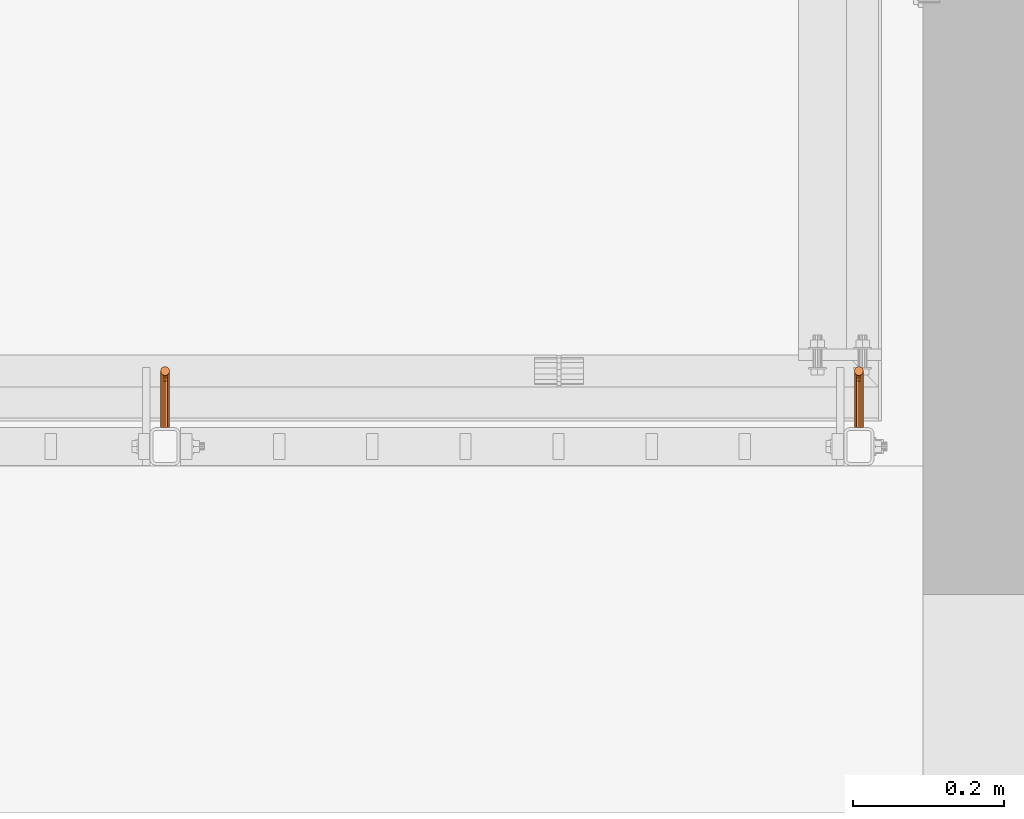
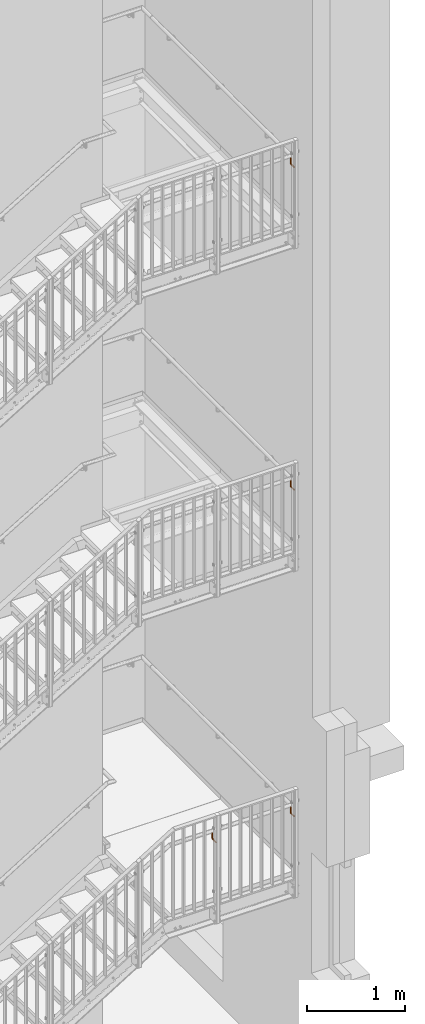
# One storey, part 386 of 410: 4 proxies.
"""IFC2X3 building model written with IfcOpenShell, lengths in millimetres."""

from ifc_helpers import new_model, entity, si_unit, converted_unit, origin_with_axes, place, context, project, spatial, faceted_brep, element, save


model = new_model("IFC2X3")

# Units and contexts
model_context = context("Model", 3, precision=1e-09, world=origin_with_axes())
ifc_project = project(units=[si_unit("LENGTHUNIT", "METRE", prefix="MILLI"), si_unit("AREAUNIT", "SQUARE_METRE"), si_unit("VOLUMEUNIT", "CUBIC_METRE"), converted_unit("PLANEANGLEUNIT", "DEGREE", entity("IfcPlaneAngleMeasure", 0.01745329), si_unit("PLANEANGLEUNIT", "RADIAN"), dimensions=[0, 0, 0, 0, 0, 0, 0])], contexts=[model_context])

# Site, building, storey
site_placement = place(None, origin_with_axes())
site = spatial("IfcSite", under=ifc_project, at=site_placement, Name="mKR Teilneubau & Sanierung BA1 - Ostfildern", CompositionType="ELEMENT")
building_placement = place(site_placement, origin_with_axes())
building = spatial("IfcBuilding", under=site, at=building_placement, Name="Struktur 1", CompositionType="ELEMENT")
storey_placement = place(building_placement, origin_with_axes())
storey = spatial("IfcBuildingStorey", under=building, at=storey_placement, Name="Default Storey", CompositionType="ELEMENT", Elevation=0.0)

# Proxies
proxy_1_placement = place(None, origin_with_axes())
element("IfcBuildingElementProxy", 1, at=proxy_1_placement, inside=storey, ObjectType="-", context=model_context, shape_type="Brep", body=[
    faceted_brep([(3205.001468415, 15487.999999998, 6663.6), (3205.001468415, 15430.999999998, 6663.6), (3208.001468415, 15430.999999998, 6662.796152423), (3208.001468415, 15487.999999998, 6662.796152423), (3199.805315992, 15430.999999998, 6654.6), (3202.001468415, 15430.999999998, 6652.403847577), (3205.001468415, 15430.999999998, 6651.6), (3208.001468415, 15430.999999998, 6652.403847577), (3210.197620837, 15430.999999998, 6654.6), (3211.001468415, 15430.999999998, 6657.6), (3210.197620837, 15430.999999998, 6660.6), (3202.001468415, 15430.999999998, 6662.796152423), (3199.805315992, 15430.999999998, 6660.6), (3199.001468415, 15430.999999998, 6657.6), (3202.001468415, 15487.999999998, 6662.796152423), (3208.001468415, 15492.899820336, 6663.770787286), (3205.001468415, 15492.592201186, 6664.51344561), (3210.197620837, 15487.999999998, 6660.6), (3202.001468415, 15492.899820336, 6663.770787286), (3205.001468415, 15496.485281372, 6667.114718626), (3202.001468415, 15497.053687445, 6666.546312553), (3208.001468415, 15497.053687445, 6666.546312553), (3210.197620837, 15493.740251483, 6661.741807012), (3199.805315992, 15487.999999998, 6660.6), (3205.001468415, 15499.086554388, 6671.007798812), (3202.001468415, 15499.829212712, 6670.700179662), (3202.001468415, 15500.803847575, 6675.6), (3202.001468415, 15500.803847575, 6732.6), (3199.805315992, 15502.999999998, 6732.6), (3199.805315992, 15502.999999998, 6675.6), (3205.001468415, 15499.999999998, 6675.6), (3205.001468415, 15499.999999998, 6732.6), (3211.001468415, 15487.999999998, 6657.6), (3199.805315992, 15501.858192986, 6669.859748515), (3199.805315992, 15493.740251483, 6661.741807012), (3199.805315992, 15498.606601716, 6664.993398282), (3210.197620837, 15508.999999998, 6732.6), (3208.001468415, 15511.196152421, 6732.6), (3205.001468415, 15511.999999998, 6732.6), (3202.001468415, 15511.196152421, 6732.6), (3199.805315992, 15508.999999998, 6732.6), (3199.001468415, 15505.999999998, 6732.6), (3208.001468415, 15500.803847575, 6732.6), (3210.197620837, 15502.999999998, 6732.6), (3211.001468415, 15505.999999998, 6732.6), (3208.001468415, 15499.829212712, 6670.700179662), (3211.001468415, 15494.888301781, 6658.970168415), (3210.197620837, 15498.606601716, 6664.993398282), (3199.001468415, 15487.999999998, 6657.6), (3199.001468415, 15505.999999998, 6675.6), (3208.001468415, 15500.803847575, 6675.6), (3210.197620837, 15487.999999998, 6654.6), (3199.001468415, 15504.629831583, 6668.711698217), (3199.001468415, 15494.888301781, 6658.970168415), (3199.001468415, 15500.727922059, 6662.872077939), (3210.197620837, 15501.858192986, 6669.859748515), (3210.197620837, 15496.036352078, 6656.198529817), (3211.001468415, 15500.727922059, 6662.872077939), (3208.001468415, 15487.999999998, 6652.403847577), (3205.001468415, 15487.999999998, 6651.6), (3202.001468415, 15487.999999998, 6652.403847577), (3199.805315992, 15487.999999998, 6654.6), (3199.805315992, 15508.999999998, 6675.6), (3210.197620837, 15502.999999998, 6675.6), (3199.805315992, 15507.401470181, 6667.56364792), (3199.805315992, 15496.036352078, 6656.198529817), (3199.805315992, 15502.849242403, 6660.750757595), (3211.001468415, 15504.629831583, 6668.711698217), (3208.001468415, 15496.876783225, 6654.169549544), (3210.197620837, 15502.849242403, 6660.750757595), (3205.001468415, 15497.184402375, 6653.42689122), (3202.001468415, 15496.876783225, 6654.169549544), (3202.001468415, 15511.196152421, 6675.6), (3211.001468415, 15505.999999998, 6675.6), (3202.001468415, 15509.430450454, 6666.723216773), (3202.001468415, 15504.402156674, 6659.197843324), (3210.197620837, 15507.401470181, 6667.56364792), (3208.001468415, 15504.402156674, 6659.197843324), (3205.001468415, 15511.999999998, 6675.6), (3205.001468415, 15504.970562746, 6658.629437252), (3210.197620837, 15508.999999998, 6675.6), (3205.001468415, 15510.173108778, 6666.415597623), (3208.001468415, 15509.430450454, 6666.723216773), (3208.001468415, 15511.196152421, 6675.6)], [[[0, 1, 2, 3]], [[4, 5, 6, 7, 8, 9, 10, 2, 1, 11, 12, 13]], [[1, 0, 14, 11]], [[0, 3, 15, 16]], [[3, 2, 10, 17]], [[16, 18, 14, 0]], [[19, 20, 18, 16]], [[16, 15, 21, 19]], [[3, 17, 22, 15]], [[11, 14, 23, 12]], [[20, 19, 24, 25]], [[26, 27, 28, 29]], [[27, 26, 30, 31]], [[17, 10, 9, 32]], [[26, 29, 33, 25]], [[18, 34, 23, 14]], [[20, 35, 34, 18]], [[25, 33, 35, 20]], [[36, 37, 38, 39, 40, 41, 28, 27, 31, 42, 43, 44]], [[25, 24, 30, 26]], [[19, 21, 45, 24]], [[17, 32, 46, 22]], [[15, 22, 47, 21]], [[12, 23, 48, 13]], [[29, 28, 41, 49]], [[31, 30, 50, 42]], [[32, 9, 8, 51]], [[29, 49, 52, 33]], [[34, 53, 48, 23]], [[35, 54, 53, 34]], [[33, 52, 54, 35]], [[24, 45, 50, 30]], [[21, 47, 55, 45]], [[32, 51, 56, 46]], [[22, 46, 57, 47]], [[7, 58, 51, 8]], [[6, 59, 58, 7]], [[5, 60, 59, 6]], [[4, 61, 60, 5]], [[13, 48, 61, 4]], [[49, 41, 40, 62]], [[42, 50, 63, 43]], [[49, 62, 64, 52]], [[53, 65, 61, 48]], [[54, 66, 65, 53]], [[52, 64, 66, 54]], [[45, 55, 63, 50]], [[47, 57, 67, 55]], [[51, 58, 68, 56]], [[46, 56, 69, 57]], [[58, 59, 70, 68]], [[59, 60, 71, 70]], [[60, 61, 65, 71]], [[62, 40, 39, 72]], [[43, 63, 73, 44]], [[62, 72, 74, 64]], [[66, 75, 71, 65]], [[64, 74, 75, 66]], [[55, 67, 73, 63]], [[57, 69, 76, 67]], [[56, 68, 77, 69]], [[72, 39, 38, 78]], [[68, 70, 79, 77]], [[70, 71, 75, 79]], [[44, 73, 80, 36]], [[72, 78, 81, 74]], [[74, 81, 79, 75]], [[67, 76, 80, 73]], [[69, 77, 82, 76]], [[78, 38, 37, 83]], [[77, 79, 81, 82]], [[36, 80, 83, 37]], [[78, 83, 82, 81]], [[76, 82, 83, 80]]]),
])
proxy_2_placement = place(None, origin_with_axes())
element("IfcBuildingElementProxy", 2, at=proxy_2_placement, inside=storey, ObjectType="-", context=model_context, shape_type="Brep", body=[
    faceted_brep([(3205.001468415, 15487.999999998, 2651.6434785), (3205.001468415, 15430.999999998, 2651.6434785), (3208.001468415, 15430.999999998, 2650.839630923), (3208.001468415, 15487.999999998, 2650.839630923), (3199.805315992, 15430.999999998, 2642.6434785), (3202.001468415, 15430.999999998, 2640.447326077), (3205.001468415, 15430.999999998, 2639.6434785), (3208.001468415, 15430.999999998, 2640.447326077), (3210.197620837, 15430.999999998, 2642.6434785), (3211.001468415, 15430.999999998, 2645.6434785), (3210.197620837, 15430.999999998, 2648.6434785), (3202.001468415, 15430.999999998, 2650.839630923), (3199.805315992, 15430.999999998, 2648.6434785), (3199.001468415, 15430.999999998, 2645.6434785), (3202.001468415, 15487.999999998, 2650.839630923), (3208.001468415, 15492.899820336, 2651.814265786), (3205.001468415, 15492.592201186, 2652.55692411), (3210.197620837, 15487.999999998, 2648.6434785), (3202.001468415, 15492.899820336, 2651.814265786), (3205.001468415, 15496.485281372, 2655.158197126), (3202.001468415, 15497.053687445, 2654.589791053), (3208.001468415, 15497.053687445, 2654.589791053), (3210.197620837, 15493.740251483, 2649.785285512), (3199.805315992, 15487.999999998, 2648.6434785), (3205.001468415, 15499.086554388, 2659.051277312), (3202.001468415, 15499.829212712, 2658.743658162), (3202.001468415, 15500.803847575, 2663.6434785), (3202.001468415, 15500.803847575, 2720.6434785), (3199.805315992, 15502.999999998, 2720.6434785), (3199.805315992, 15502.999999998, 2663.6434785), (3205.001468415, 15499.999999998, 2663.6434785), (3205.001468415, 15499.999999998, 2720.6434785), (3211.001468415, 15487.999999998, 2645.6434785), (3199.805315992, 15501.858192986, 2657.903227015), (3199.805315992, 15493.740251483, 2649.785285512), (3199.805315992, 15498.606601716, 2653.036876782), (3210.197620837, 15508.999999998, 2720.6434785), (3208.001468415, 15511.196152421, 2720.6434785), (3205.001468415, 15511.999999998, 2720.6434785), (3202.001468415, 15511.196152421, 2720.6434785), (3199.805315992, 15508.999999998, 2720.6434785), (3199.001468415, 15505.999999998, 2720.6434785), (3208.001468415, 15500.803847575, 2720.6434785), (3210.197620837, 15502.999999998, 2720.6434785), (3211.001468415, 15505.999999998, 2720.6434785), (3208.001468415, 15499.829212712, 2658.743658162), (3211.001468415, 15494.888301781, 2647.013646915), (3210.197620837, 15498.606601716, 2653.036876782), (3199.001468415, 15487.999999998, 2645.6434785), (3199.001468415, 15505.999999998, 2663.6434785), (3208.001468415, 15500.803847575, 2663.6434785), (3210.197620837, 15487.999999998, 2642.6434785), (3199.001468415, 15504.629831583, 2656.755176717), (3199.001468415, 15494.888301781, 2647.013646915), (3199.001468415, 15500.727922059, 2650.915556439), (3210.197620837, 15501.858192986, 2657.903227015), (3210.197620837, 15496.036352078, 2644.242008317), (3211.001468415, 15500.727922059, 2650.915556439), (3208.001468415, 15487.999999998, 2640.447326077), (3205.001468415, 15487.999999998, 2639.6434785), (3202.001468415, 15487.999999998, 2640.447326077), (3199.805315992, 15487.999999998, 2642.6434785), (3199.805315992, 15508.999999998, 2663.6434785), (3210.197620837, 15502.999999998, 2663.6434785), (3199.805315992, 15507.401470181, 2655.60712642), (3199.805315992, 15496.036352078, 2644.242008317), (3199.805315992, 15502.849242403, 2648.794236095), (3211.001468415, 15504.629831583, 2656.755176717), (3208.001468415, 15496.876783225, 2642.213028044), (3210.197620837, 15502.849242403, 2648.794236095), (3205.001468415, 15497.184402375, 2641.47036972), (3202.001468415, 15496.876783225, 2642.213028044), (3202.001468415, 15511.196152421, 2663.6434785), (3211.001468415, 15505.999999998, 2663.6434785), (3202.001468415, 15509.430450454, 2654.766695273), (3202.001468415, 15504.402156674, 2647.241321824), (3210.197620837, 15507.401470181, 2655.60712642), (3208.001468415, 15504.402156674, 2647.241321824), (3205.001468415, 15511.999999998, 2663.6434785), (3205.001468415, 15504.970562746, 2646.672915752), (3210.197620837, 15508.999999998, 2663.6434785), (3205.001468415, 15510.173108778, 2654.459076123), (3208.001468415, 15509.430450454, 2654.766695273), (3208.001468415, 15511.196152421, 2663.6434785)], [[[0, 1, 2, 3]], [[4, 5, 6, 7, 8, 9, 10, 2, 1, 11, 12, 13]], [[1, 0, 14, 11]], [[0, 3, 15, 16]], [[3, 2, 10, 17]], [[16, 18, 14, 0]], [[19, 20, 18, 16]], [[16, 15, 21, 19]], [[3, 17, 22, 15]], [[11, 14, 23, 12]], [[20, 19, 24, 25]], [[26, 27, 28, 29]], [[27, 26, 30, 31]], [[17, 10, 9, 32]], [[26, 29, 33, 25]], [[18, 34, 23, 14]], [[20, 35, 34, 18]], [[25, 33, 35, 20]], [[36, 37, 38, 39, 40, 41, 28, 27, 31, 42, 43, 44]], [[25, 24, 30, 26]], [[19, 21, 45, 24]], [[17, 32, 46, 22]], [[15, 22, 47, 21]], [[12, 23, 48, 13]], [[29, 28, 41, 49]], [[31, 30, 50, 42]], [[32, 9, 8, 51]], [[29, 49, 52, 33]], [[34, 53, 48, 23]], [[35, 54, 53, 34]], [[33, 52, 54, 35]], [[24, 45, 50, 30]], [[21, 47, 55, 45]], [[32, 51, 56, 46]], [[22, 46, 57, 47]], [[7, 58, 51, 8]], [[6, 59, 58, 7]], [[5, 60, 59, 6]], [[4, 61, 60, 5]], [[13, 48, 61, 4]], [[49, 41, 40, 62]], [[42, 50, 63, 43]], [[49, 62, 64, 52]], [[53, 65, 61, 48]], [[54, 66, 65, 53]], [[52, 64, 66, 54]], [[45, 55, 63, 50]], [[47, 57, 67, 55]], [[51, 58, 68, 56]], [[46, 56, 69, 57]], [[58, 59, 70, 68]], [[59, 60, 71, 70]], [[60, 61, 65, 71]], [[62, 40, 39, 72]], [[43, 63, 73, 44]], [[62, 72, 74, 64]], [[66, 75, 71, 65]], [[64, 74, 75, 66]], [[55, 67, 73, 63]], [[57, 69, 76, 67]], [[56, 68, 77, 69]], [[72, 39, 38, 78]], [[68, 70, 79, 77]], [[70, 71, 75, 79]], [[44, 73, 80, 36]], [[72, 78, 81, 74]], [[74, 81, 79, 75]], [[67, 76, 80, 73]], [[69, 77, 82, 76]], [[78, 38, 37, 83]], [[77, 79, 81, 82]], [[36, 80, 83, 37]], [[78, 83, 82, 81]], [[76, 82, 83, 80]]]),
])
proxy_3_placement = place(None, origin_with_axes())
element("IfcBuildingElementProxy", 3, at=proxy_3_placement, inside=storey, ObjectType="-", context=model_context, shape_type="Brep", body=[
    faceted_brep([(3205.001468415, 15487.999999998, -1407.0), (3205.001468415, 15430.999999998, -1407.0), (3208.001468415, 15430.999999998, -1407.803847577), (3208.001468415, 15487.999999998, -1407.803847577), (3199.805315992, 15430.999999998, -1416.0), (3202.001468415, 15430.999999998, -1418.196152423), (3205.001468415, 15430.999999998, -1419.0), (3208.001468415, 15430.999999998, -1418.196152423), (3210.197620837, 15430.999999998, -1416.0), (3211.001468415, 15430.999999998, -1413.0), (3210.197620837, 15430.999999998, -1410.0), (3202.001468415, 15430.999999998, -1407.803847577), (3199.805315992, 15430.999999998, -1410.0), (3199.001468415, 15430.999999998, -1413.0), (3202.001468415, 15487.999999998, -1407.803847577), (3208.001468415, 15492.899820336, -1406.829212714), (3205.001468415, 15492.592201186, -1406.08655439), (3210.197620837, 15487.999999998, -1410.0), (3202.001468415, 15492.899820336, -1406.829212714), (3205.001468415, 15496.485281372, -1403.485281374), (3202.001468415, 15497.053687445, -1404.053687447), (3208.001468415, 15497.053687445, -1404.053687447), (3210.197620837, 15493.740251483, -1408.858192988), (3199.805315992, 15487.999999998, -1410.0), (3205.001468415, 15499.086554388, -1399.592201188), (3202.001468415, 15499.829212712, -1399.899820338), (3202.001468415, 15500.803847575, -1395.0), (3202.001468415, 15500.803847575, -1338.0), (3199.805315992, 15502.999999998, -1338.0), (3199.805315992, 15502.999999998, -1395.0), (3205.001468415, 15499.999999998, -1395.0), (3205.001468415, 15499.999999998, -1338.0), (3211.001468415, 15487.999999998, -1413.0), (3199.805315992, 15501.858192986, -1400.740251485), (3199.805315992, 15493.740251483, -1408.858192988), (3199.805315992, 15498.606601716, -1405.606601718), (3210.197620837, 15508.999999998, -1338.0), (3208.001468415, 15511.196152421, -1338.0), (3205.001468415, 15511.999999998, -1338.0), (3202.001468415, 15511.196152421, -1338.0), (3199.805315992, 15508.999999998, -1338.0), (3199.001468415, 15505.999999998, -1338.0), (3208.001468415, 15500.803847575, -1338.0), (3210.197620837, 15502.999999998, -1338.0), (3211.001468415, 15505.999999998, -1338.0), (3208.001468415, 15499.829212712, -1399.899820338), (3211.001468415, 15494.888301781, -1411.629831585), (3210.197620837, 15498.606601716, -1405.606601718), (3199.001468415, 15487.999999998, -1413.0), (3199.001468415, 15505.999999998, -1395.0), (3208.001468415, 15500.803847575, -1395.0), (3210.197620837, 15487.999999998, -1416.0), (3199.001468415, 15504.629831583, -1401.888301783), (3199.001468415, 15494.888301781, -1411.629831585), (3199.001468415, 15500.727922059, -1407.727922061), (3210.197620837, 15501.858192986, -1400.740251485), (3210.197620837, 15496.036352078, -1414.401470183), (3211.001468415, 15500.727922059, -1407.727922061), (3208.001468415, 15487.999999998, -1418.196152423), (3205.001468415, 15487.999999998, -1419.0), (3202.001468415, 15487.999999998, -1418.196152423), (3199.805315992, 15487.999999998, -1416.0), (3199.805315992, 15508.999999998, -1395.0), (3210.197620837, 15502.999999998, -1395.0), (3199.805315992, 15507.401470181, -1403.03635208), (3199.805315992, 15496.036352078, -1414.401470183), (3199.805315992, 15502.849242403, -1409.849242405), (3211.001468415, 15504.629831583, -1401.888301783), (3208.001468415, 15496.876783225, -1416.430450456), (3210.197620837, 15502.849242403, -1409.849242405), (3205.001468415, 15497.184402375, -1417.17310878), (3202.001468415, 15496.876783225, -1416.430450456), (3202.001468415, 15511.196152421, -1395.0), (3211.001468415, 15505.999999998, -1395.0), (3202.001468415, 15509.430450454, -1403.876783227), (3202.001468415, 15504.402156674, -1411.402156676), (3210.197620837, 15507.401470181, -1403.03635208), (3208.001468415, 15504.402156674, -1411.402156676), (3205.001468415, 15511.999999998, -1395.0), (3205.001468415, 15504.970562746, -1411.970562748), (3210.197620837, 15508.999999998, -1395.0), (3205.001468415, 15510.173108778, -1404.184402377), (3208.001468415, 15509.430450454, -1403.876783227), (3208.001468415, 15511.196152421, -1395.0)], [[[0, 1, 2, 3]], [[4, 5, 6, 7, 8, 9, 10, 2, 1, 11, 12, 13]], [[1, 0, 14, 11]], [[0, 3, 15, 16]], [[3, 2, 10, 17]], [[16, 18, 14, 0]], [[19, 20, 18, 16]], [[16, 15, 21, 19]], [[3, 17, 22, 15]], [[11, 14, 23, 12]], [[20, 19, 24, 25]], [[26, 27, 28, 29]], [[27, 26, 30, 31]], [[17, 10, 9, 32]], [[26, 29, 33, 25]], [[18, 34, 23, 14]], [[20, 35, 34, 18]], [[25, 33, 35, 20]], [[36, 37, 38, 39, 40, 41, 28, 27, 31, 42, 43, 44]], [[25, 24, 30, 26]], [[19, 21, 45, 24]], [[17, 32, 46, 22]], [[15, 22, 47, 21]], [[12, 23, 48, 13]], [[29, 28, 41, 49]], [[31, 30, 50, 42]], [[32, 9, 8, 51]], [[29, 49, 52, 33]], [[34, 53, 48, 23]], [[35, 54, 53, 34]], [[33, 52, 54, 35]], [[24, 45, 50, 30]], [[21, 47, 55, 45]], [[32, 51, 56, 46]], [[22, 46, 57, 47]], [[7, 58, 51, 8]], [[6, 59, 58, 7]], [[5, 60, 59, 6]], [[4, 61, 60, 5]], [[13, 48, 61, 4]], [[49, 41, 40, 62]], [[42, 50, 63, 43]], [[49, 62, 64, 52]], [[53, 65, 61, 48]], [[54, 66, 65, 53]], [[52, 64, 66, 54]], [[45, 55, 63, 50]], [[47, 57, 67, 55]], [[51, 58, 68, 56]], [[46, 56, 69, 57]], [[58, 59, 70, 68]], [[59, 60, 71, 70]], [[60, 61, 65, 71]], [[62, 40, 39, 72]], [[43, 63, 73, 44]], [[62, 72, 74, 64]], [[66, 75, 71, 65]], [[64, 74, 75, 66]], [[55, 67, 73, 63]], [[57, 69, 76, 67]], [[56, 68, 77, 69]], [[72, 39, 38, 78]], [[68, 70, 79, 77]], [[70, 71, 75, 79]], [[44, 73, 80, 36]], [[72, 78, 81, 74]], [[74, 81, 79, 75]], [[67, 76, 80, 73]], [[69, 77, 82, 76]], [[78, 38, 37, 83]], [[77, 79, 81, 82]], [[36, 80, 83, 37]], [[78, 83, 82, 81]], [[76, 82, 83, 80]]]),
])
proxy_4_placement = place(None, origin_with_axes())
element("IfcBuildingElementProxy", 4, at=proxy_4_placement, inside=storey, ObjectType="-", context=model_context, shape_type="Brep", body=[
    faceted_brep([(2285.001468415, 15487.999999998, -1407.0), (2285.001468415, 15430.999999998, -1407.0), (2288.001468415, 15430.999999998, -1407.803847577), (2288.001468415, 15487.999999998, -1407.803847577), (2279.805315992, 15430.999999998, -1416.0), (2282.001468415, 15430.999999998, -1418.196152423), (2285.001468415, 15430.999999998, -1419.0), (2288.001468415, 15430.999999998, -1418.196152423), (2290.197620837, 15430.999999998, -1416.0), (2291.001468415, 15430.999999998, -1413.0), (2290.197620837, 15430.999999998, -1410.0), (2282.001468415, 15430.999999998, -1407.803847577), (2279.805315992, 15430.999999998, -1410.0), (2279.001468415, 15430.999999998, -1413.0), (2282.001468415, 15487.999999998, -1407.803847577), (2288.001468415, 15492.899820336, -1406.829212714), (2285.001468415, 15492.592201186, -1406.08655439), (2290.197620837, 15487.999999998, -1410.0), (2282.001468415, 15492.899820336, -1406.829212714), (2285.001468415, 15496.485281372, -1403.485281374), (2282.001468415, 15497.053687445, -1404.053687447), (2288.001468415, 15497.053687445, -1404.053687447), (2290.197620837, 15493.740251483, -1408.858192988), (2279.805315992, 15487.999999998, -1410.0), (2285.001468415, 15499.086554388, -1399.592201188), (2282.001468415, 15499.829212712, -1399.899820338), (2282.001468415, 15500.803847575, -1395.0), (2282.001468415, 15500.803847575, -1338.0), (2279.805315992, 15502.999999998, -1338.0), (2279.805315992, 15502.999999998, -1395.0), (2285.001468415, 15499.999999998, -1395.0), (2285.001468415, 15499.999999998, -1338.0), (2291.001468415, 15487.999999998, -1413.0), (2279.805315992, 15501.858192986, -1400.740251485), (2279.805315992, 15493.740251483, -1408.858192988), (2279.805315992, 15498.606601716, -1405.606601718), (2290.197620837, 15508.999999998, -1338.0), (2288.001468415, 15511.196152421, -1338.0), (2285.001468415, 15511.999999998, -1338.0), (2282.001468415, 15511.196152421, -1338.0), (2279.805315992, 15508.999999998, -1338.0), (2279.001468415, 15505.999999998, -1338.0), (2288.001468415, 15500.803847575, -1338.0), (2290.197620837, 15502.999999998, -1338.0), (2291.001468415, 15505.999999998, -1338.0), (2288.001468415, 15499.829212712, -1399.899820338), (2291.001468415, 15494.888301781, -1411.629831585), (2290.197620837, 15498.606601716, -1405.606601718), (2279.001468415, 15487.999999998, -1413.0), (2279.001468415, 15505.999999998, -1395.0), (2288.001468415, 15500.803847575, -1395.0), (2290.197620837, 15487.999999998, -1416.0), (2279.001468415, 15504.629831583, -1401.888301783), (2279.001468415, 15494.888301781, -1411.629831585), (2279.001468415, 15500.727922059, -1407.727922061), (2290.197620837, 15501.858192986, -1400.740251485), (2290.197620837, 15496.036352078, -1414.401470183), (2291.001468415, 15500.727922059, -1407.727922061), (2288.001468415, 15487.999999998, -1418.196152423), (2285.001468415, 15487.999999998, -1419.0), (2282.001468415, 15487.999999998, -1418.196152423), (2279.805315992, 15487.999999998, -1416.0), (2279.805315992, 15508.999999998, -1395.0), (2290.197620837, 15502.999999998, -1395.0), (2279.805315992, 15507.401470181, -1403.03635208), (2279.805315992, 15496.036352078, -1414.401470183), (2279.805315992, 15502.849242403, -1409.849242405), (2291.001468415, 15504.629831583, -1401.888301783), (2288.001468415, 15496.876783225, -1416.430450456), (2290.197620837, 15502.849242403, -1409.849242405), (2285.001468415, 15497.184402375, -1417.17310878), (2282.001468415, 15496.876783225, -1416.430450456), (2282.001468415, 15511.196152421, -1395.0), (2291.001468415, 15505.999999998, -1395.0), (2282.001468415, 15509.430450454, -1403.876783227), (2282.001468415, 15504.402156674, -1411.402156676), (2290.197620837, 15507.401470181, -1403.03635208), (2288.001468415, 15504.402156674, -1411.402156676), (2285.001468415, 15511.999999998, -1395.0), (2285.001468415, 15504.970562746, -1411.970562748), (2290.197620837, 15508.999999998, -1395.0), (2285.001468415, 15510.173108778, -1404.184402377), (2288.001468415, 15509.430450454, -1403.876783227), (2288.001468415, 15511.196152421, -1395.0)], [[[0, 1, 2, 3]], [[4, 5, 6, 7, 8, 9, 10, 2, 1, 11, 12, 13]], [[1, 0, 14, 11]], [[0, 3, 15, 16]], [[3, 2, 10, 17]], [[16, 18, 14, 0]], [[19, 20, 18, 16]], [[16, 15, 21, 19]], [[3, 17, 22, 15]], [[11, 14, 23, 12]], [[20, 19, 24, 25]], [[26, 27, 28, 29]], [[27, 26, 30, 31]], [[17, 10, 9, 32]], [[26, 29, 33, 25]], [[18, 34, 23, 14]], [[20, 35, 34, 18]], [[25, 33, 35, 20]], [[36, 37, 38, 39, 40, 41, 28, 27, 31, 42, 43, 44]], [[25, 24, 30, 26]], [[19, 21, 45, 24]], [[17, 32, 46, 22]], [[15, 22, 47, 21]], [[12, 23, 48, 13]], [[29, 28, 41, 49]], [[31, 30, 50, 42]], [[32, 9, 8, 51]], [[29, 49, 52, 33]], [[34, 53, 48, 23]], [[35, 54, 53, 34]], [[33, 52, 54, 35]], [[24, 45, 50, 30]], [[21, 47, 55, 45]], [[32, 51, 56, 46]], [[22, 46, 57, 47]], [[7, 58, 51, 8]], [[6, 59, 58, 7]], [[5, 60, 59, 6]], [[4, 61, 60, 5]], [[13, 48, 61, 4]], [[49, 41, 40, 62]], [[42, 50, 63, 43]], [[49, 62, 64, 52]], [[53, 65, 61, 48]], [[54, 66, 65, 53]], [[52, 64, 66, 54]], [[45, 55, 63, 50]], [[47, 57, 67, 55]], [[51, 58, 68, 56]], [[46, 56, 69, 57]], [[58, 59, 70, 68]], [[59, 60, 71, 70]], [[60, 61, 65, 71]], [[62, 40, 39, 72]], [[43, 63, 73, 44]], [[62, 72, 74, 64]], [[66, 75, 71, 65]], [[64, 74, 75, 66]], [[55, 67, 73, 63]], [[57, 69, 76, 67]], [[56, 68, 77, 69]], [[72, 39, 38, 78]], [[68, 70, 79, 77]], [[70, 71, 75, 79]], [[44, 73, 80, 36]], [[72, 78, 81, 74]], [[74, 81, 79, 75]], [[67, 76, 80, 73]], [[69, 77, 82, 76]], [[78, 38, 37, 83]], [[77, 79, 81, 82]], [[36, 80, 83, 37]], [[78, 83, 82, 81]], [[76, 82, 83, 80]]]),
])

save(model, "model.ifc")
